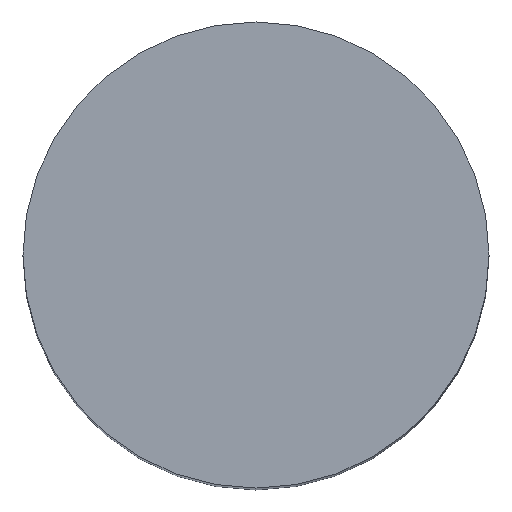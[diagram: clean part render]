
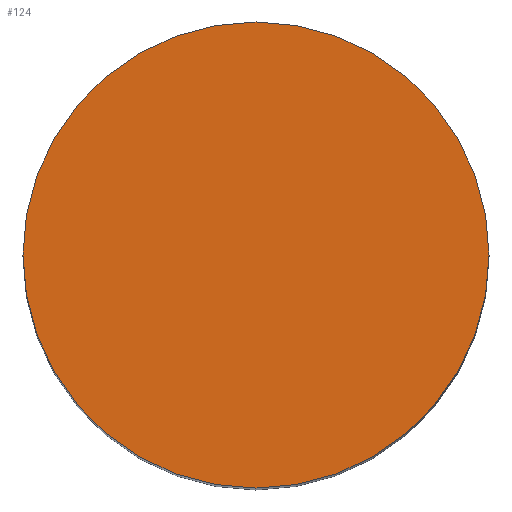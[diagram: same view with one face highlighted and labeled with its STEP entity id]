
A CAD part, top view. The second image highlights one B-rep face of the part: STEP entity #124.
In plain terms, the highlighted planar face has unit normal (0, 0, 1).
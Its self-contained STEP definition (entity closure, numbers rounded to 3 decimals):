
#40 = EDGE_CURVE('',#41,#41,#43,.T.);
#41 = VERTEX_POINT('',#42);
#42 = CARTESIAN_POINT('',(13.2,0.,62.5));
#43 = SURFACE_CURVE('',#44,(#49,#61),.PCURVE_S1.);
#44 = CIRCLE('',#45,13.2);
#45 = AXIS2_PLACEMENT_3D('',#46,#47,#48);
#46 = CARTESIAN_POINT('',(0.,0.,62.5));
#47 = DIRECTION('',(0.,0.,1.));
#48 = DIRECTION('',(1.,0.,-0.));
#49 = PCURVE('',#50,#55);
#50 = CYLINDRICAL_SURFACE('',#51,13.2);
#51 = AXIS2_PLACEMENT_3D('',#52,#53,#54);
#52 = CARTESIAN_POINT('',(0.,0.,0.));
#53 = DIRECTION('',(0.,0.,1.));
#54 = DIRECTION('',(1.,0.,-0.));
#55 = DEFINITIONAL_REPRESENTATION('',(#56),#60);
#56 = LINE('',#57,#58);
#57 = CARTESIAN_POINT('',(0.,62.5));
#58 = VECTOR('',#59,1.);
#59 = DIRECTION('',(1.,0.));
#60 = ( GEOMETRIC_REPRESENTATION_CONTEXT(2) 
PARAMETRIC_REPRESENTATION_CONTEXT() REPRESENTATION_CONTEXT('2D SPACE',''
  ) );
#61 = PCURVE('',#62,#67);
#62 = PLANE('',#63);
#63 = AXIS2_PLACEMENT_3D('',#64,#65,#66);
#64 = CARTESIAN_POINT('',(0.,0.,62.5));
#65 = DIRECTION('',(0.,0.,1.));
#66 = DIRECTION('',(1.,0.,-0.));
#67 = DEFINITIONAL_REPRESENTATION('',(#68),#72);
#68 = CIRCLE('',#69,13.2);
#69 = AXIS2_PLACEMENT_2D('',#70,#71);
#70 = CARTESIAN_POINT('',(0.,0.));
#71 = DIRECTION('',(1.,0.));
#72 = ( GEOMETRIC_REPRESENTATION_CONTEXT(2) 
PARAMETRIC_REPRESENTATION_CONTEXT() REPRESENTATION_CONTEXT('2D SPACE',''
  ) );
#124 = ADVANCED_FACE('',(#125),#62,.T.);
#125 = FACE_BOUND('',#126,.T.);
#126 = EDGE_LOOP('',(#127));
#127 = ORIENTED_EDGE('',*,*,#40,.T.);
